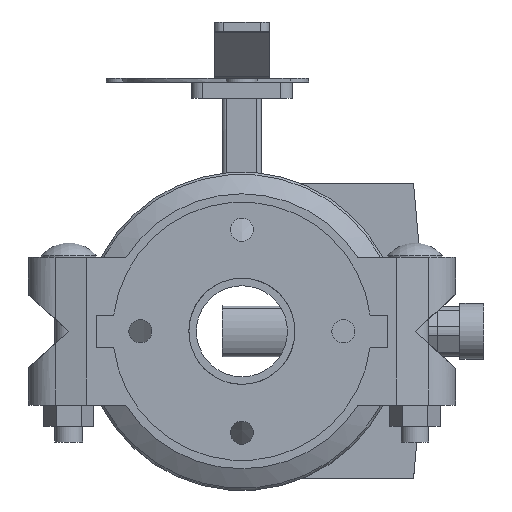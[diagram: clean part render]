
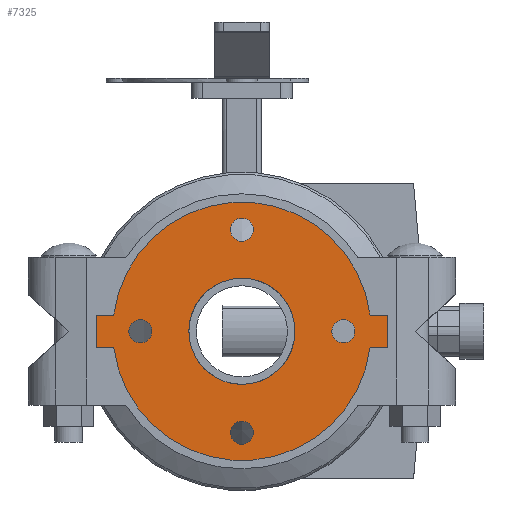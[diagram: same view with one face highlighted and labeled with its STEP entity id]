
A CAD part, front view. The second image highlights one B-rep face of the part: STEP entity #7325.
In plain terms, the highlighted planar face has unit normal (0, -1, 0) as drawn and (0, 0, -1) by its records, which use the part's own axes.
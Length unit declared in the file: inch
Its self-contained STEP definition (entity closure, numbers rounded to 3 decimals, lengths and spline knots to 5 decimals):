
#170=FACE_BOUND('',#903,.T.);
#171=FACE_BOUND('',#904,.T.);
#172=FACE_BOUND('',#905,.T.);
#173=FACE_BOUND('',#906,.T.);
#174=FACE_BOUND('',#907,.T.);
#260=PLANE('',#7944);
#497=FACE_OUTER_BOUND('',#902,.T.);
#902=EDGE_LOOP('',(#4688,#4689,#4690,#4691,#4692,#4693,#4694,#4695));
#903=EDGE_LOOP('',(#4696));
#904=EDGE_LOOP('',(#4697));
#905=EDGE_LOOP('',(#4698));
#906=EDGE_LOOP('',(#4699));
#907=EDGE_LOOP('',(#4700,#4701));
#1397=LINE('',#11130,#1950);
#1398=LINE('',#11132,#1951);
#1399=LINE('',#11134,#1952);
#1400=LINE('',#11138,#1953);
#1401=LINE('',#11140,#1954);
#1402=LINE('',#11141,#1955);
#1950=VECTOR('',#8838,0.3937);
#1951=VECTOR('',#8839,0.3937);
#1952=VECTOR('',#8840,0.3937);
#1953=VECTOR('',#8843,0.3937);
#1954=VECTOR('',#8844,0.3937);
#1955=VECTOR('',#8845,0.3937);
#2500=CIRCLE('',#7934,0.3125);
#2502=CIRCLE('',#7937,0.3125);
#2504=CIRCLE('',#7940,0.3125);
#2506=CIRCLE('',#7943,0.3125);
#2507=CIRCLE('',#7945,3.5);
#2508=CIRCLE('',#7946,3.5);
#2509=CIRCLE('',#7947,1.4375);
#2510=CIRCLE('',#7948,1.4375);
#2924=VERTEX_POINT('',#11104);
#2926=VERTEX_POINT('',#11110);
#2928=VERTEX_POINT('',#11116);
#2930=VERTEX_POINT('',#11122);
#2931=VERTEX_POINT('',#11126);
#2932=VERTEX_POINT('',#11127);
#2933=VERTEX_POINT('',#11129);
#2934=VERTEX_POINT('',#11131);
#2935=VERTEX_POINT('',#11133);
#2936=VERTEX_POINT('',#11135);
#2937=VERTEX_POINT('',#11137);
#2938=VERTEX_POINT('',#11139);
#2939=VERTEX_POINT('',#11142);
#2940=VERTEX_POINT('',#11143);
#3629=EDGE_CURVE('',#2924,#2924,#2500,.T.);
#3632=EDGE_CURVE('',#2926,#2926,#2502,.T.);
#3635=EDGE_CURVE('',#2928,#2928,#2504,.T.);
#3638=EDGE_CURVE('',#2930,#2930,#2506,.T.);
#3639=EDGE_CURVE('',#2931,#2932,#2507,.T.);
#3640=EDGE_CURVE('',#2932,#2933,#1397,.T.);
#3641=EDGE_CURVE('',#2933,#2934,#1398,.T.);
#3642=EDGE_CURVE('',#2934,#2935,#1399,.T.);
#3643=EDGE_CURVE('',#2935,#2936,#2508,.T.);
#3644=EDGE_CURVE('',#2936,#2937,#1400,.T.);
#3645=EDGE_CURVE('',#2937,#2938,#1401,.T.);
#3646=EDGE_CURVE('',#2938,#2931,#1402,.T.);
#3647=EDGE_CURVE('',#2939,#2940,#2509,.T.);
#3648=EDGE_CURVE('',#2940,#2939,#2510,.T.);
#4688=ORIENTED_EDGE('',*,*,#3639,.T.);
#4689=ORIENTED_EDGE('',*,*,#3640,.T.);
#4690=ORIENTED_EDGE('',*,*,#3641,.T.);
#4691=ORIENTED_EDGE('',*,*,#3642,.T.);
#4692=ORIENTED_EDGE('',*,*,#3643,.T.);
#4693=ORIENTED_EDGE('',*,*,#3644,.T.);
#4694=ORIENTED_EDGE('',*,*,#3645,.T.);
#4695=ORIENTED_EDGE('',*,*,#3646,.T.);
#4696=ORIENTED_EDGE('',*,*,#3629,.T.);
#4697=ORIENTED_EDGE('',*,*,#3632,.T.);
#4698=ORIENTED_EDGE('',*,*,#3635,.T.);
#4699=ORIENTED_EDGE('',*,*,#3638,.T.);
#4700=ORIENTED_EDGE('',*,*,#3647,.T.);
#4701=ORIENTED_EDGE('',*,*,#3648,.T.);
#7325=ADVANCED_FACE('',(#497,#170,#171,#172,#173,#174),#260,.T.);
#7934=AXIS2_PLACEMENT_3D('',#11106,#8811,#8812);
#7937=AXIS2_PLACEMENT_3D('',#11112,#8818,#8819);
#7940=AXIS2_PLACEMENT_3D('',#11118,#8825,#8826);
#7943=AXIS2_PLACEMENT_3D('',#11124,#8832,#8833);
#7944=AXIS2_PLACEMENT_3D('',#11125,#8834,#8835);
#7945=AXIS2_PLACEMENT_3D('',#11128,#8836,#8837);
#7946=AXIS2_PLACEMENT_3D('',#11136,#8841,#8842);
#7947=AXIS2_PLACEMENT_3D('',#11144,#8846,#8847);
#7948=AXIS2_PLACEMENT_3D('',#11145,#8848,#8849);
#8811=DIRECTION('center_axis',(0.,0.,1.));
#8812=DIRECTION('ref_axis',(0.,1.,0.));
#8818=DIRECTION('center_axis',(0.,0.,1.));
#8819=DIRECTION('ref_axis',(1.,0.,0.));
#8825=DIRECTION('center_axis',(0.,0.,1.));
#8826=DIRECTION('ref_axis',(0.,-1.,0.));
#8832=DIRECTION('center_axis',(0.,0.,1.));
#8833=DIRECTION('ref_axis',(-1.,0.,0.));
#8834=DIRECTION('center_axis',(0.,0.,-1.));
#8835=DIRECTION('ref_axis',(-1.,0.,0.));
#8836=DIRECTION('center_axis',(0.,0.,-1.));
#8837=DIRECTION('ref_axis',(-1.,0.,0.));
#8838=DIRECTION('',(0.,1.,0.));
#8839=DIRECTION('',(1.,0.,0.));
#8840=DIRECTION('',(0.,-1.,0.));
#8841=DIRECTION('center_axis',(0.,0.,-1.));
#8842=DIRECTION('ref_axis',(-1.,0.,0.));
#8843=DIRECTION('',(0.,-1.,0.));
#8844=DIRECTION('',(-1.,0.,0.));
#8845=DIRECTION('',(0.,1.,0.));
#8846=DIRECTION('center_axis',(0.,0.,1.));
#8847=DIRECTION('ref_axis',(-1.,0.,0.));
#8848=DIRECTION('center_axis',(0.,0.,1.));
#8849=DIRECTION('ref_axis',(-1.,0.,0.));
#11104=CARTESIAN_POINT('',(0.,2.4375,-0.44));
#11106=CARTESIAN_POINT('Origin',(0.,2.75,-0.44));
#11110=CARTESIAN_POINT('',(2.4375,0.,-0.44));
#11112=CARTESIAN_POINT('Origin',(2.75,0.,-0.44));
#11116=CARTESIAN_POINT('',(0.,-2.4375,-0.44));
#11118=CARTESIAN_POINT('Origin',(0.,-2.75,-0.44));
#11122=CARTESIAN_POINT('',(-2.4375,0.,-0.44));
#11124=CARTESIAN_POINT('Origin',(-2.75,0.,-0.44));
#11125=CARTESIAN_POINT('Origin',(0.,0.,-0.44));
#11126=CARTESIAN_POINT('',(-0.44,-3.47223,-0.44));
#11127=CARTESIAN_POINT('',(-0.44,3.47223,-0.44));
#11128=CARTESIAN_POINT('Origin',(0.,0.,-0.44));
#11129=CARTESIAN_POINT('',(-0.44,3.94,-0.44));
#11130=CARTESIAN_POINT('',(-0.44,-3.94,-0.44));
#11131=CARTESIAN_POINT('',(0.44,3.94,-0.44));
#11132=CARTESIAN_POINT('',(-0.44,3.94,-0.44));
#11133=CARTESIAN_POINT('',(0.44,3.47223,-0.44));
#11134=CARTESIAN_POINT('',(0.44,3.94,-0.44));
#11135=CARTESIAN_POINT('',(0.44,-3.47223,-0.44));
#11136=CARTESIAN_POINT('Origin',(0.,0.,-0.44));
#11137=CARTESIAN_POINT('',(0.44,-3.94,-0.44));
#11138=CARTESIAN_POINT('',(0.44,3.94,-0.44));
#11139=CARTESIAN_POINT('',(-0.44,-3.94,-0.44));
#11140=CARTESIAN_POINT('',(0.44,-3.94,-0.44));
#11141=CARTESIAN_POINT('',(-0.44,-3.94,-0.44));
#11142=CARTESIAN_POINT('',(0.44,1.36851,-0.44));
#11143=CARTESIAN_POINT('',(1.4375,0.,-0.44));
#11144=CARTESIAN_POINT('Origin',(0.,0.,-0.44));
#11145=CARTESIAN_POINT('Origin',(0.,0.,-0.44));
